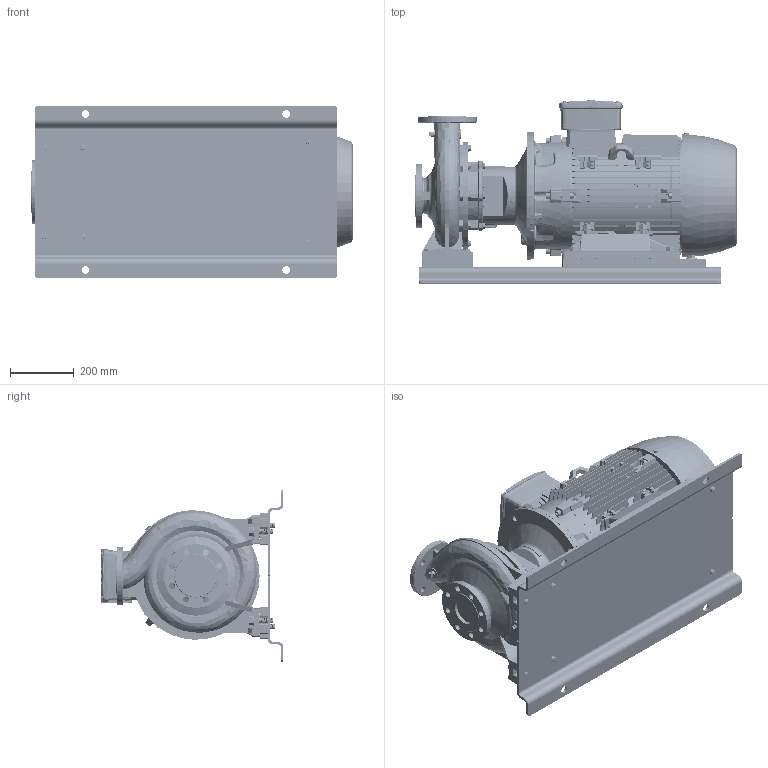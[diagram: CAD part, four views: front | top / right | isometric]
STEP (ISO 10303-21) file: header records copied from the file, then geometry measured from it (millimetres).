
FILE_DESCRIPTION (( 'STEP AP214' ), '1' );
FILE_NAME ('GSD2 65-250_30.0 & 37.0_(200ML)_W21_BP.STEP', '2024-05-17T05:51:38', ( '' ), ( '' ), 'SwSTEP 2.0', 'SolidWorks 2019', '' );
FILE_SCHEMA (( 'AUTOMOTIVE_DESIGN' ));
Length unit declared in the file: millimetre
Products named in the file (19): Parametric bolt_SFT-A359B; GSD2  65-250_30.0 & 37.0_(200ML)_W21_BP; Parametric bolt and washer_SFT-A359B; Parametric bolt_SFT-A365B; 65-250-200M_L_______; Parametric Flat Washer_M16; Parametric bolt and washer_SFT-A365B; N6S2 GSDA-627 F1-1832940-00; CGS11-5321_2_3_4_5_CGS11-5322; 80x25 - CGSDA-5271; 200M_L ALIE3_W21T_B35
Assembly tree (37 placements, depth 3):
  GSD2  65-250_30.0 & 37.0_(200ML)_W21_BP
    65-250-200M_L_______
    N6S2 GSDA-627 F1-1832940-00
    CGS11-5321_2_3_4_5_CGS11-5322  x2
    80x25 - CGSDA-5271  x2
    Parametric bolt and washer_SFT-A359B
      Parametric bolt_SFT-A359B
      Parametric Flat Washer_M16
    Parametric bolt and washer_SFT-A359B
      Parametric bolt_SFT-A359B
      Parametric Flat Washer_M16
    Parametric bolt and washer_SFT-A365B
      Parametric bolt_SFT-A365B
      Parametric Flat Washer_M16
    Parametric bolt and washer_SFT-A365B
      Parametric bolt_SFT-A365B
      Parametric Flat Washer_M16
    Parametric bolt and washer_SFT-A365B
      Parametric bolt_SFT-A365B
      Parametric Flat Washer_M16
    Parametric bolt and washer_SFT-A365B
      Parametric bolt_SFT-A365B
      Parametric Flat Washer_M16
    200M_L ALIE3_W21T_B35
    Parametric bolt and washer_SFT-A359B
      Parametric bolt_SFT-A359B
      Parametric Flat Washer_M16
    Parametric bolt and washer_SFT-A359B
      Parametric bolt_SFT-A359B
      Parametric Flat Washer_M16
    Parametric bolt and washer_SFT-A359B
      Parametric bolt_SFT-A359B
      Parametric Flat Washer_M16
    Parametric bolt and washer_SFT-A359B
      Parametric bolt_SFT-A359B
      Parametric Flat Washer_M16
Bounding box: 1008.8 x 574.5 x 540 mm (x, y, z)
Volume: 89267440.3 mm3; surface area: 5628979.8 mm2
Topology: 55 solids, 65 shells, 7503 faces, 19372 edges, 12419 vertices
Faces by surface type: plane 4335, cylinder 1354, bspline 997, cone 602, torus 211, sphere 4
Entity records: 275781 total; most frequent: CARTESIAN_POINT 115605, ORIENTED_EDGE 35680, DIRECTION 28879, EDGE_CURVE 17840, VERTEX_POINT 11493, LINE 10925, VECTOR 10925, AXIS2_PLACEMENT_3D 8977
